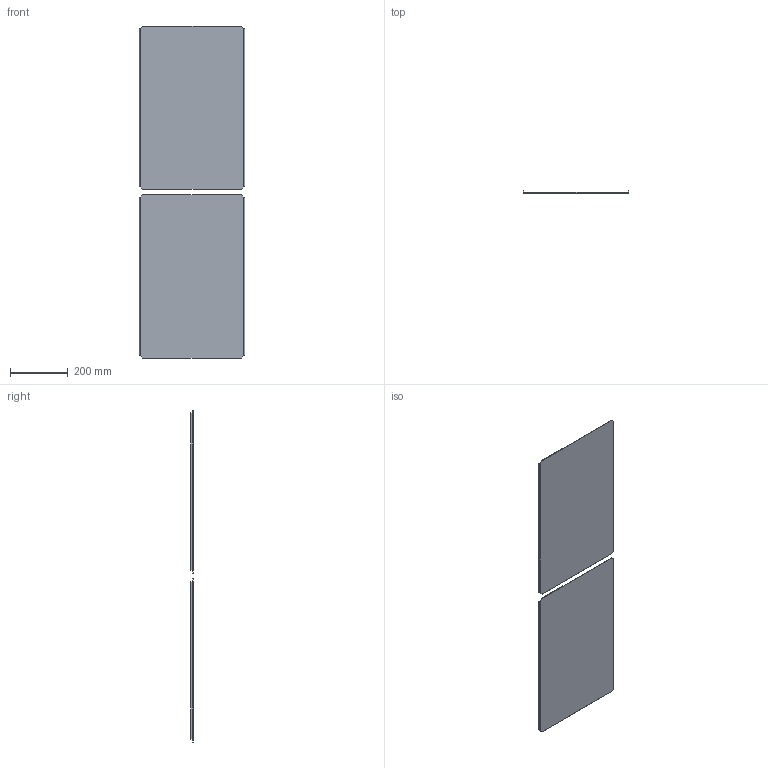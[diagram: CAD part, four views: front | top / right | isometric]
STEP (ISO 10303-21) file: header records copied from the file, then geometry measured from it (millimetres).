
FILE_DESCRIPTION (( 'STEP AP203' ), '1' );
FILE_NAME ('EUFC-140050.STEP', '2020-11-13T16:35:47', ( '' ), ( '' ), 'SwSTEP 2.0', 'SolidWorks 2019', '' );
FILE_SCHEMA (( 'CONFIG_CONTROL_DESIGN' ));
Length unit declared in the file: millimetre
Products named in the file (1): EUFC-140050
Bounding box: 365 x 8 x 1149.3 mm (x, y, z)
Volume: 637258.5 mm3; surface area: 855259.7 mm2
Topology: 2 solids, 2 shells, 44 faces, 120 edges, 80 vertices
Faces by surface type: plane 36, cylinder 8
Entity records: 1455 total; most frequent: CARTESIAN_POINT 269, ORIENTED_EDGE 240, DIRECTION 218, EDGE_CURVE 120, LINE 96, VECTOR 96, VERTEX_POINT 80, AXIS2_PLACEMENT_3D 61
